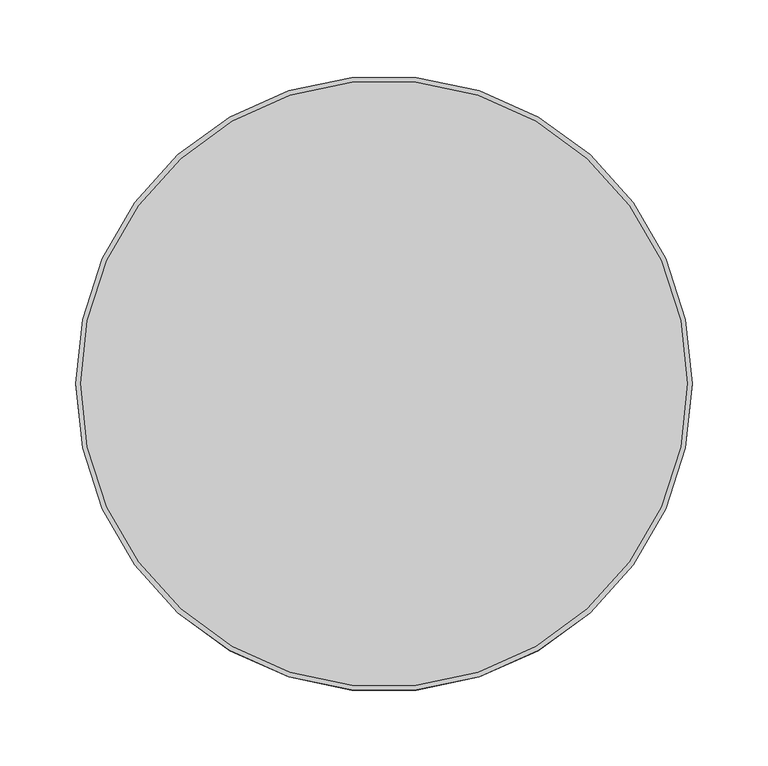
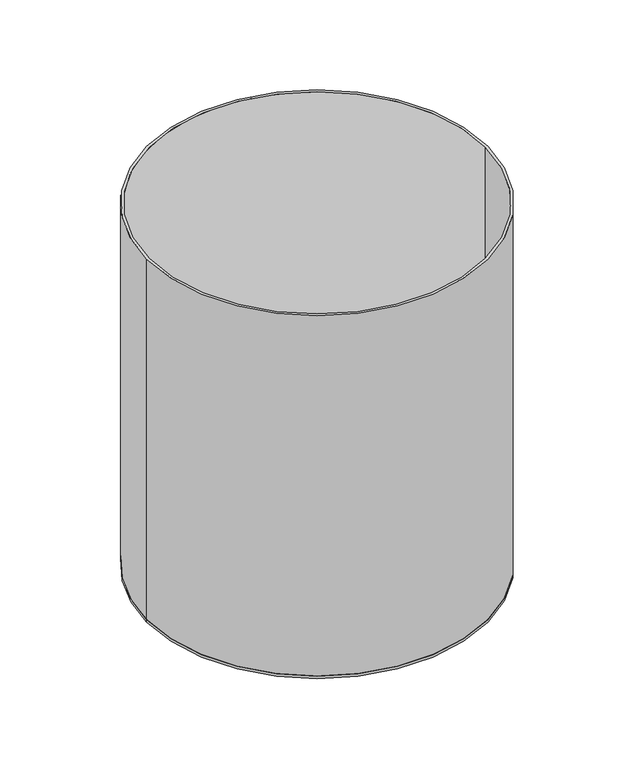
"""IFC4 building model written with IfcOpenShell, lengths in millimetres: proxy geometry, F2000 - Basket, Wastepaper : F2000 - Basket, Wastepaper."""

from ifc_helpers import new_model, si_unit, point, frame, origin, origin_with_axes, origin_2d, place, context, project, spatial, circle_curve, trimmed, segment, composite_curve, outline, extrude, source, transform, mapped, element, save


def specialty_equipment_49429395(model_context):
    return source(origin(), model_context, "Body", "SweptSolid", [
        extrude(outline(composite_curve([segment(trimmed(circle_curve(origin_2d(), 203.2), [point((-203.2, 0.0))], [point((203.2, 0.0))], False, "CARTESIAN"), True, "CONTINUOUS"), segment(trimmed(circle_curve(origin_2d(), 203.2), [point((203.2, 0.0))], [point((-203.2, 0.0))], False, "CARTESIAN"), True, "CONTINUOUS")], self_intersect=False)), origin_with_axes(), (0.0, 0.0, 1.0), 3.175),
        extrude(outline(composite_curve([segment(trimmed(circle_curve(origin_2d(), 203.2), [point((-203.2, 0.0))], [point((203.2, 0.0))], False, "CARTESIAN"), True, "CONTINUOUS"), segment(trimmed(circle_curve(origin_2d(), 203.2), [point((203.2, 0.0))], [point((-203.2, 0.0))], False, "CARTESIAN"), True, "CONTINUOUS")], self_intersect=False), holes=[composite_curve([segment(trimmed(circle_curve(origin_2d(), 200.025), [point((-200.025, 0.0))], [point((200.025, 0.0))], True, "CARTESIAN"), True, "CONTINUOUS"), segment(trimmed(circle_curve(origin_2d(), 200.025), [point((200.025, 0.0))], [point((-200.025, 0.0))], True, "CARTESIAN"), True, "CONTINUOUS")], self_intersect=False)]), frame((0.0, 0.0, 3.175), z_axis=(0.0, 0.0, 1.0), x_axis=(1.0, 0.0, 0.0)), (0.0, 0.0, 1.0), 454.025),
    ])


if __name__ == "__main__":
    model = new_model("IFC4")
    model_context = context("Model", 3, world=origin())
    ifc_project = project(units=[si_unit("LENGTHUNIT", "METRE", prefix="MILLI")], contexts=[model_context])
    site = spatial("IfcSite", under=ifc_project)
    building = spatial("IfcBuilding", under=site)
    placement = place(None, origin())
    specialty_equipment_shape = specialty_equipment_49429395(model_context)
    element("IfcBuildingElementProxy", 1, Name="F2000 - Basket, Wastepaper : F2000 - Basket, Wastepaper", ObjectType="F2000 - Basket, Wastepaper : F2000 - Basket, Wastepaper", at=placement, inside=building, context=model_context, shape_type="MappedRepresentation", body=[
        mapped(specialty_equipment_shape, transform((0.0, 0.0, 0.0), x_axis=(1.0, 0.0, 0.0), y_axis=(0.0, 1.0, 0.0), z_axis=(0.0, 0.0, 1.0))),
    ])
    save(model, "model.ifc")
